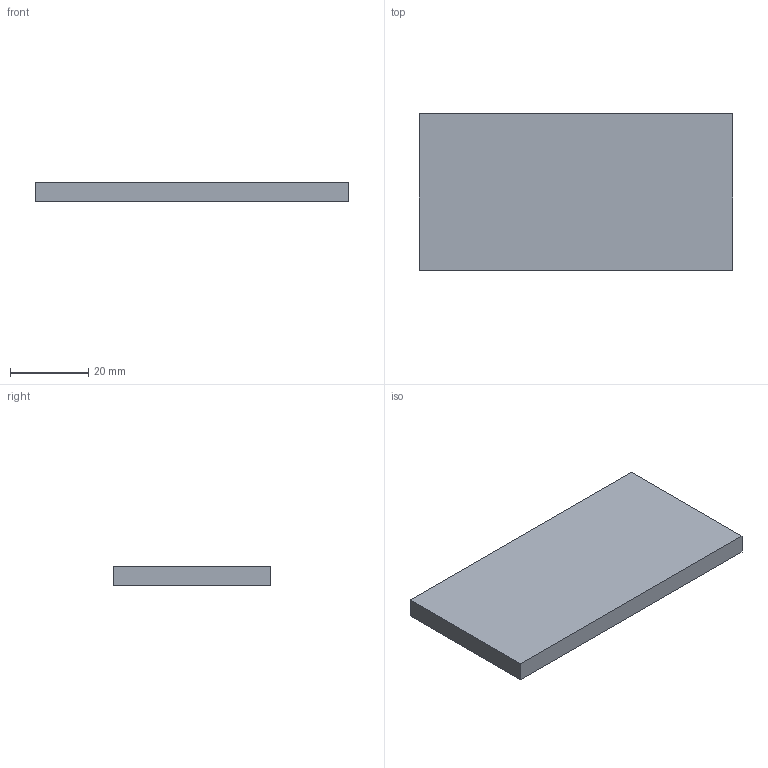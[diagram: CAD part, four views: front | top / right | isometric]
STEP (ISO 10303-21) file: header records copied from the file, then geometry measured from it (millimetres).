
FILE_DESCRIPTION((''),'2;1');
FILE_NAME('C:\Documents and Settings\AMS8\デスクトップ\2013from西村作業用\既存3D\エンドキャップiges\ECP-4080-8.stp','2013-08-06T13:47:53',('AMS8'),(''),'Autodesk Inventor 2008','Autodesk Inventor 2008','');
FILE_SCHEMA(('AUTOMOTIVE_DESIGN { 1 0 10303 214 1 1 1 1 }'));
Length unit declared in the file: millimetre
Products named in the file (1): ECP-4080-8
Bounding box: 80 x 40 x 5 mm (x, y, z)
Volume: 16000 mm3; surface area: 7600 mm2
Topology: 1 solids, 1 shells, 6 faces, 12 edges, 8 vertices
Faces by surface type: plane 6
Entity records: 182 total; most frequent: CARTESIAN_POINT 27, DIRECTION 26, ORIENTED_EDGE 24, VECTOR 12, LINE 12, EDGE_CURVE 12, VERTEX_POINT 8, AXIS2_PLACEMENT_3D 7
